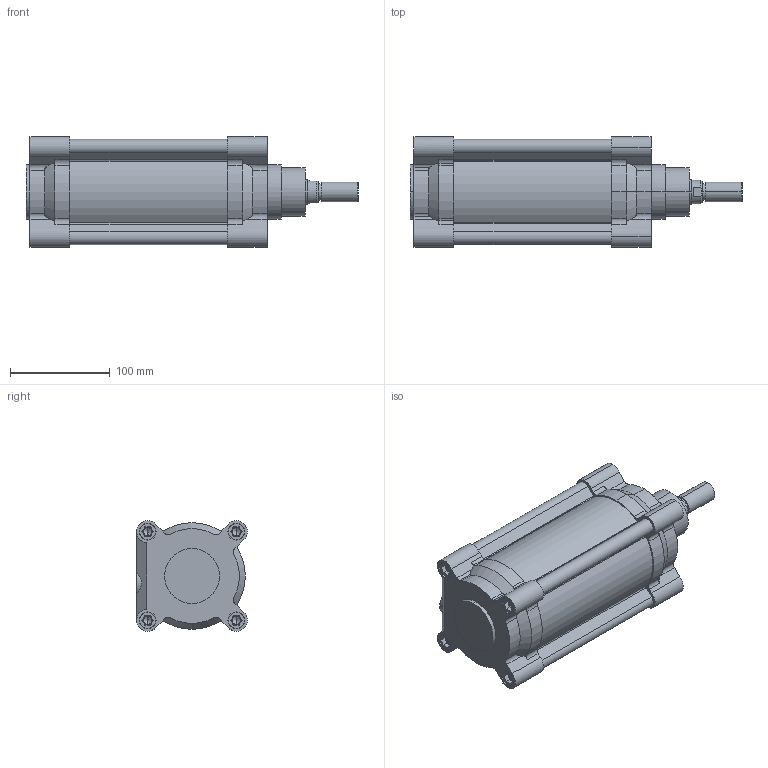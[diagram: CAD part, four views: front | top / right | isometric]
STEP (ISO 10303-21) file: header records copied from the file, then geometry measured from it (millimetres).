
FILE_DESCRIPTION (( 'STEP AP203' ), '1' );
FILE_NAME ('CPME100-100.STEP', '2024-05-13T13:45:08', ( '' ), ( '' ), 'SwSTEP 2.0', 'SolidWorks 2019', '' );
FILE_SCHEMA (( 'CONFIG_CONTROL_DESIGN' ));
Length unit declared in the file: millimetre
Products named in the file (1): CPME100-100
Bounding box: 333 x 111 x 111 mm (x, y, z)
Volume: 1721165.5 mm3; surface area: 303482.2 mm2
Topology: 4 solids, 4 shells, 438 faces, 1087 edges, 674 vertices
Faces by surface type: plane 195, cylinder 191, cone 52
Entity records: 13513 total; most frequent: CARTESIAN_POINT 2845, DIRECTION 2343, ORIENTED_EDGE 2134, EDGE_CURVE 1067, AXIS2_PLACEMENT_3D 875, VERTEX_POINT 674, LINE 593, VECTOR 593
